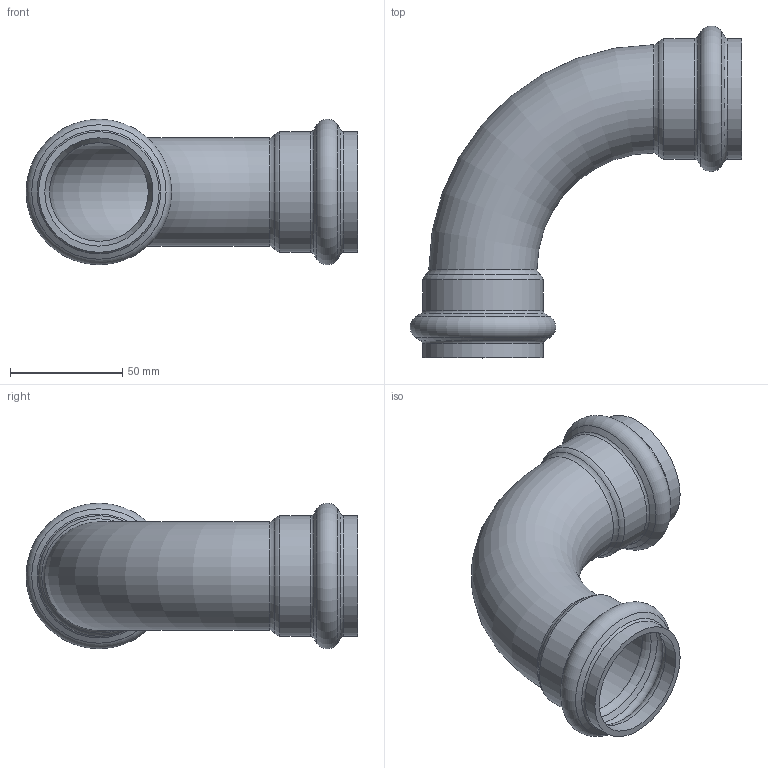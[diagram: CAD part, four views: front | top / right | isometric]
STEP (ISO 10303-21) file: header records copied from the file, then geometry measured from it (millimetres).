
FILE_DESCRIPTION(/* description */ ('VIC 90 DEG ST ELBOW STYLE P568 (P X P)','CAx-IF Rec.Pracs.---Representation and Presentation of Product Manufacturing Information (PMI)---4.0---2014-10-13'),/* implementation_level */ '2;1');
FILE_NAME(/* name */ 'C:\Users\kkamble\AppData\Roaming\Autodesk\ApplicationPlugins\Back Up\Victaulic_SS-Vic-Press-TP 316_Elbow 90 Deg_Style P568 (VP)\Victaulic_SS-Vic-Press-TP 316_Elbow 90 Deg_Style P568 (VP)_1.5 (40).stp',/* time_stamp */ '2020-08-14T14:06:38+06:00',/* author */ ('cgray'),/* organization */ ('Victaulic'),/* preprocessor_version */ 'ST-DEVELOPER v17.2',/* originating_system */ 'Autodesk Inventor 2019',/* authorisation */ '');
FILE_SCHEMA (('AP242_MANAGED_MODEL_BASED_3D_ENGINEERING_MIM_LF { 1 0 10303 442 1 1 4 }'));
Length unit declared in the file: inch
Products named in the file (1): P568-01.5
Bounding box: 148.06 x 148.06 x 64.97 mm (x, y, z)
Volume: 77134.1 mm3; surface area: 65635.3 mm2
Topology: 1 solids, 1 shells, 38 faces, 140 edges, 104 vertices
Faces by surface type: torus 18, cone 10, cylinder 8, plane 2
Full cylindrical faces by diameter (mm): 48.26 x4, 53.797 x4
Entity records: 1796 total; most frequent: DIRECTION 366, CARTESIAN_POINT 300, ORIENTED_EDGE 280, AXIS2_PLACEMENT_3D 174, EDGE_CURVE 140, CIRCLE 122, VERTEX_POINT 104, EDGE_LOOP 40
